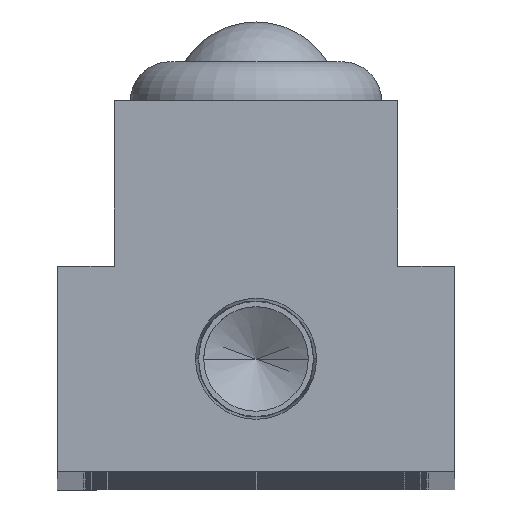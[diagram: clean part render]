
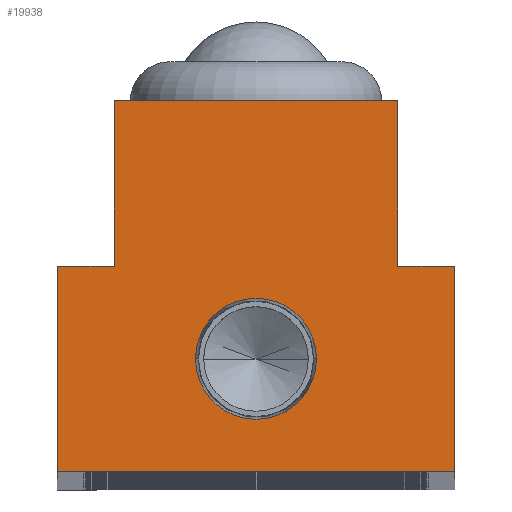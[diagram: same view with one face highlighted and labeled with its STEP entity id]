
A CAD part, top view. The second image highlights one B-rep face of the part: STEP entity #19938.
In plain terms, the highlighted planar face has unit normal (0, 0, 1).
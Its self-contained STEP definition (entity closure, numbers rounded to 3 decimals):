
#265 = ORIENTED_EDGE ( 'NONE', *, *, #9633, .T. ) ;
#644 = VERTEX_POINT ( 'NONE', #5704 ) ;
#968 = EDGE_LOOP ( 'NONE', ( #9084, #265, #19233, #10808, #18565, #12995, #20160, #19874 ) ) ;
#1045 = DIRECTION ( 'NONE',  ( 0., -1., 0. ) ) ;
#1476 = VERTEX_POINT ( 'NONE', #3194 ) ;
#1756 = FACE_BOUND ( 'NONE', #3645, .T. ) ;
#1937 = CIRCLE ( 'NONE', #6603, 4.574 ) ;
#1991 = LINE ( 'NONE', #3273, #10098 ) ;
#2257 = ORIENTED_EDGE ( 'NONE', *, *, #3654, .F. ) ;
#2294 = LINE ( 'NONE', #16330, #20181 ) ;
#2486 = CARTESIAN_POINT ( 'NONE',  ( -10.7, 28., 0. ) ) ;
#2631 = CARTESIAN_POINT ( 'NONE',  ( -10.7, 15.5, 0. ) ) ;
#2727 = LINE ( 'NONE', #7910, #20605 ) ;
#3077 = EDGE_CURVE ( 'NONE', #8022, #644, #9262, .T. ) ;
#3096 = DIRECTION ( 'NONE',  ( 0., 0., 1. ) ) ;
#3194 = CARTESIAN_POINT ( 'NONE',  ( 15., 0., 0. ) ) ;
#3273 = CARTESIAN_POINT ( 'NONE',  ( 10.7, 15.5, 0. ) ) ;
#3276 = CARTESIAN_POINT ( 'NONE',  ( 4.574, 8.5, 0. ) ) ;
#3645 = EDGE_LOOP ( 'NONE', ( #6231, #2257 ) ) ;
#3654 = EDGE_CURVE ( 'NONE', #5453, #10205, #1937, .T. ) ;
#3732 = VERTEX_POINT ( 'NONE', #2631 ) ;
#4119 = DIRECTION ( 'NONE',  ( 0., 0., 1. ) ) ;
#4218 = DIRECTION ( 'NONE',  ( 0., 1., 0. ) ) ;
#4557 = AXIS2_PLACEMENT_3D ( 'NONE', #22051, #3096, #15201 ) ;
#5018 = DIRECTION ( 'NONE',  ( -1., 0., 0. ) ) ;
#5216 = EDGE_CURVE ( 'NONE', #17894, #12342, #8357, .T. ) ;
#5417 = CIRCLE ( 'NONE', #11353, 4.574 ) ;
#5453 = VERTEX_POINT ( 'NONE', #12352 ) ;
#5653 = DIRECTION ( 'NONE',  ( -1., 0., 0. ) ) ;
#5679 = CARTESIAN_POINT ( 'NONE',  ( 10.7, 28., 0. ) ) ;
#5704 = CARTESIAN_POINT ( 'NONE',  ( -15., 0., 0. ) ) ;
#5808 = VERTEX_POINT ( 'NONE', #2486 ) ;
#5866 = CARTESIAN_POINT ( 'NONE',  ( 15., 0., 0. ) ) ;
#5907 = CARTESIAN_POINT ( 'NONE',  ( 0., 8.5, 0. ) ) ;
#6231 = ORIENTED_EDGE ( 'NONE', *, *, #13869, .F. ) ;
#6472 = CARTESIAN_POINT ( 'NONE',  ( 10.7, 28., 0. ) ) ;
#6578 = EDGE_CURVE ( 'NONE', #644, #1476, #14507, .T. ) ;
#6603 = AXIS2_PLACEMENT_3D ( 'NONE', #18804, #4119, #16233 ) ;
#7660 = DIRECTION ( 'NONE',  ( 1., 0., 0. ) ) ;
#7818 = VECTOR ( 'NONE', #16841, 1000. ) ;
#7910 = CARTESIAN_POINT ( 'NONE',  ( -10.7, 28., 0. ) ) ;
#8022 = VERTEX_POINT ( 'NONE', #19538 ) ;
#8357 = LINE ( 'NONE', #6472, #7818 ) ;
#8551 = CARTESIAN_POINT ( 'NONE',  ( 10.7, 15.5, 0. ) ) ;
#9084 = ORIENTED_EDGE ( 'NONE', *, *, #5216, .T. ) ;
#9262 = LINE ( 'NONE', #20201, #9812 ) ;
#9351 = DIRECTION ( 'NONE',  ( 1., 0., 0. ) ) ;
#9633 = EDGE_CURVE ( 'NONE', #12342, #5808, #14060, .T. ) ;
#9812 = VECTOR ( 'NONE', #16785, 1000. ) ;
#9972 = PLANE ( 'NONE',  #4557 ) ;
#9997 = VECTOR ( 'NONE', #5653, 1000. ) ;
#10025 = EDGE_CURVE ( 'NONE', #5808, #3732, #2727, .T. ) ;
#10098 = VECTOR ( 'NONE', #5018, 1000. ) ;
#10205 = VERTEX_POINT ( 'NONE', #3276 ) ;
#10808 = ORIENTED_EDGE ( 'NONE', *, *, #13283, .T. ) ;
#10943 = FACE_OUTER_BOUND ( 'NONE', #968, .T. ) ;
#10983 = EDGE_CURVE ( 'NONE', #1476, #15635, #2294, .T. ) ;
#11353 = AXIS2_PLACEMENT_3D ( 'NONE', #5907, #18021, #7660 ) ;
#12342 = VERTEX_POINT ( 'NONE', #5679 ) ;
#12352 = CARTESIAN_POINT ( 'NONE',  ( -4.574, 8.5, 0. ) ) ;
#12483 = DIRECTION ( 'NONE',  ( -1., 0., 0. ) ) ;
#12995 = ORIENTED_EDGE ( 'NONE', *, *, #6578, .T. ) ;
#13283 = EDGE_CURVE ( 'NONE', #3732, #8022, #19250, .T. ) ;
#13438 = VECTOR ( 'NONE', #9351, 1000. ) ;
#13869 = EDGE_CURVE ( 'NONE', #10205, #5453, #5417, .T. ) ;
#13920 = CARTESIAN_POINT ( 'NONE',  ( 15., 15.5, 0. ) ) ;
#14060 = LINE ( 'NONE', #17777, #9997 ) ;
#14218 = CARTESIAN_POINT ( 'NONE',  ( -10.7, 15.5, 0. ) ) ;
#14507 = LINE ( 'NONE', #5866, #13438 ) ;
#15201 = DIRECTION ( 'NONE',  ( 1., 0., 0. ) ) ;
#15635 = VERTEX_POINT ( 'NONE', #13920 ) ;
#16233 = DIRECTION ( 'NONE',  ( 1., 0., 0. ) ) ;
#16330 = CARTESIAN_POINT ( 'NONE',  ( 15., 0., 0. ) ) ;
#16785 = DIRECTION ( 'NONE',  ( 0., -1., 0. ) ) ;
#16841 = DIRECTION ( 'NONE',  ( 0., 1., 0. ) ) ;
#17777 = CARTESIAN_POINT ( 'NONE',  ( -10.7, 28., 0. ) ) ;
#17894 = VERTEX_POINT ( 'NONE', #8551 ) ;
#18021 = DIRECTION ( 'NONE',  ( 0., 0., 1. ) ) ;
#18565 = ORIENTED_EDGE ( 'NONE', *, *, #3077, .T. ) ;
#18722 = VECTOR ( 'NONE', #12483, 1000. ) ;
#18804 = CARTESIAN_POINT ( 'NONE',  ( 0., 8.5, 0. ) ) ;
#19233 = ORIENTED_EDGE ( 'NONE', *, *, #10025, .T. ) ;
#19250 = LINE ( 'NONE', #14218, #18722 ) ;
#19538 = CARTESIAN_POINT ( 'NONE',  ( -15., 15.5, 0. ) ) ;
#19874 = ORIENTED_EDGE ( 'NONE', *, *, #20565, .T. ) ;
#19938 = ADVANCED_FACE ( 'NONE', ( #1756, #10943 ), #9972, .T. ) ;
#20160 = ORIENTED_EDGE ( 'NONE', *, *, #10983, .T. ) ;
#20181 = VECTOR ( 'NONE', #4218, 1000. ) ;
#20201 = CARTESIAN_POINT ( 'NONE',  ( -15., 0., 0. ) ) ;
#20565 = EDGE_CURVE ( 'NONE', #15635, #17894, #1991, .T. ) ;
#20605 = VECTOR ( 'NONE', #1045, 1000. ) ;
#22051 = CARTESIAN_POINT ( 'NONE',  ( 0., 0., 0. ) ) ;
